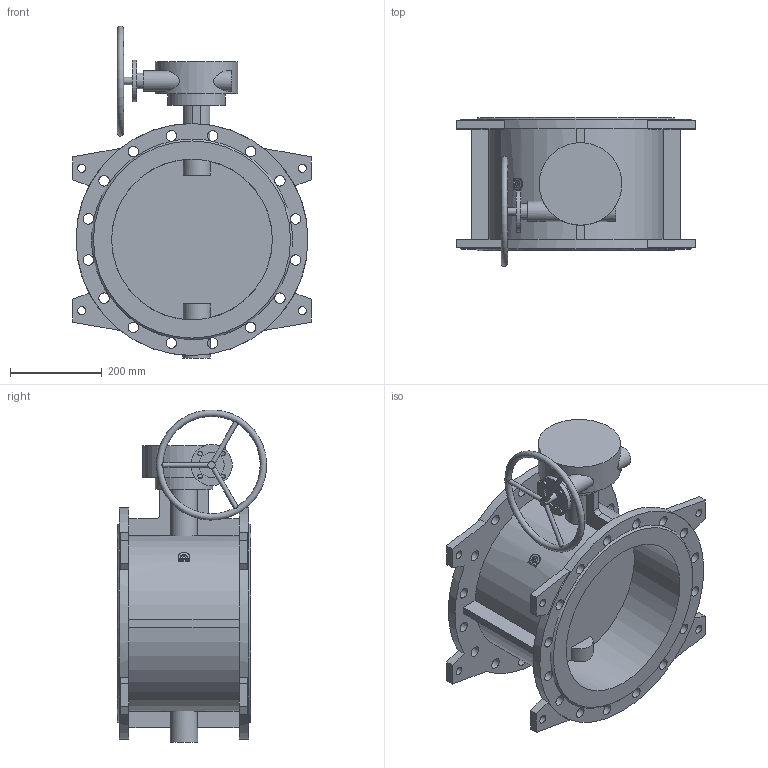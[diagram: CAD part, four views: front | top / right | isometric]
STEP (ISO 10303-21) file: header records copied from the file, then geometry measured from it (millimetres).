
FILE_DESCRIPTION(('STEP AP203'), '1');
FILE_NAME('Çàòâîð 023F.Z DN350 PN10_ìàõ', '', ('UNSPECIFIED'), ('UNSPECIFIED'), 'ASCON STEP Converter 1.6', 'ASCON Math Kernel', '');
FILE_SCHEMA(('CONFIG_CONTROL_DESIGN'));
Length unit declared in the file: millimetre
Bounding box: 520 x 324.91 x 722.77 mm (x, y, z)
Volume: 16312592.6 mm3; surface area: 1575240.2 mm2
Topology: 1 solids, 1 shells, 178 faces, 519 edges, 335 vertices
Faces by surface type: plane 90, cylinder 85, cone 2, torus 1
Full cylindrical faces by diameter (mm): 8.3 x4, 10 x7, 12 x4, 16 x1, 18 x8, 23 x32, 34 x1, 44 x1, 55 x1, 60 x1, 90 x1, 125 x1, 180 x1, 350 x2, 505 x2
Entity records: 9701 total; most frequent: CARTESIAN_POINT 3473, DIRECTION 1003, ORIENTED_EDGE 878, EDGE_CURVE 439, AXIS2_PLACEMENT_3D 411, EDGE_LOOP 365, VERTEX_POINT 330, FACE_BOUND 262
